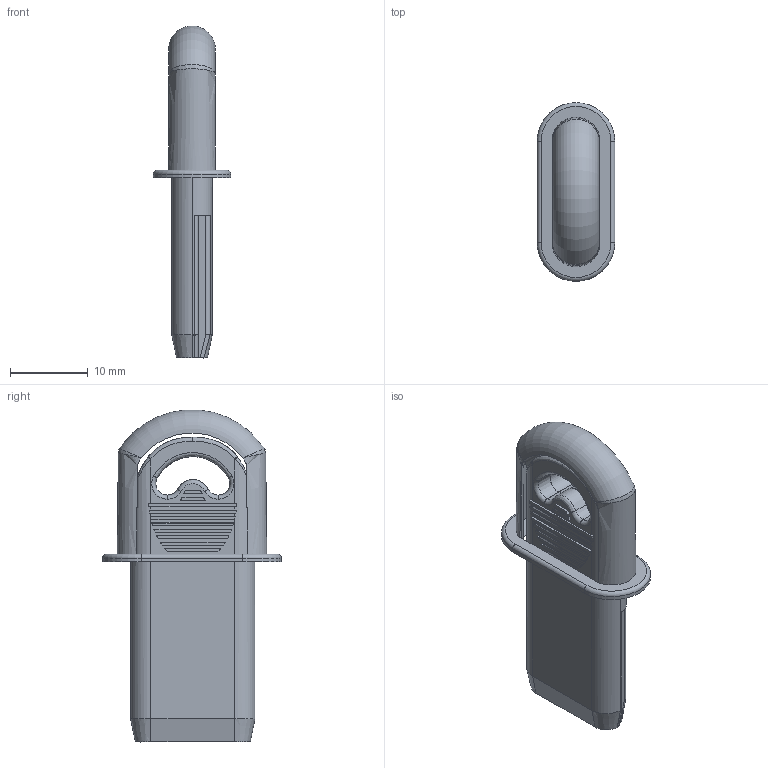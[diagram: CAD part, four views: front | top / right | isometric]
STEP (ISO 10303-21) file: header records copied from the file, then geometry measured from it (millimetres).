
FILE_DESCRIPTION((''),'2;1');
FILE_NAME('PK-SEQ-SK-B-LOGISTICK','2006-12-19T',('summne01'),(''),'PRO/ENGINEER BY PARAMETRIC TECHNOLOGY CORPORATION, 2006320','PRO/ENGINEER BY PARAMETRIC TECHNOLOGY CORPORATION, 2006320','');
FILE_SCHEMA(('CONFIG_CONTROL_DESIGN'));
Length unit declared in the file: millimetre
Products named in the file (1): PK-SEQ-SK-B-LOGISTICK
Bounding box: 10 x 23 x 42.73 mm (x, y, z)
Surface area: 2476.8 mm2 (no closed solid volume)
Topology: 0 solids, 6 shells, 200 faces, 680 edges, 462 vertices
Faces by surface type: plane 81, cone 43, bspline 36, cylinder 26, torus 11, extrusion 2, sphere 1
Entity records: 10185 total; most frequent: CARTESIAN_POINT 4748, ORIENTED_EDGE 1075, DIRECTION 990, EDGE_CURVE 680, VERTEX_POINT 462, VECTOR 376, LINE 374, AXIS2_PLACEMENT_3D 307
